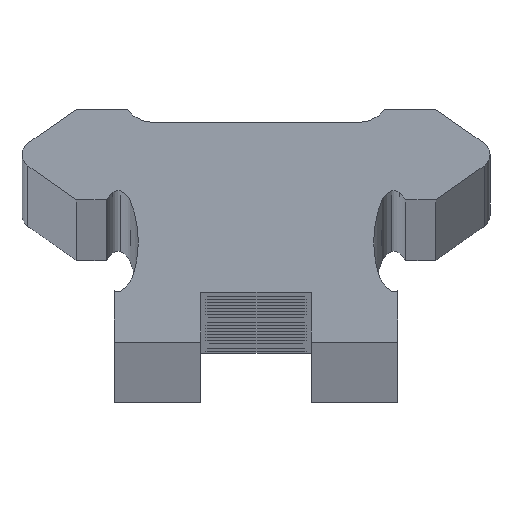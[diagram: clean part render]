
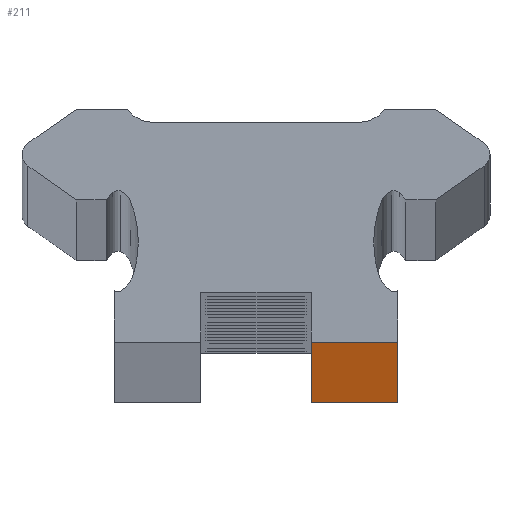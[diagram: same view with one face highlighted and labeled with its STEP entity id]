
A CAD part, top view. The second image highlights one B-rep face of the part: STEP entity #211.
In plain terms, the highlighted planar face has unit normal (0, -1, 0).
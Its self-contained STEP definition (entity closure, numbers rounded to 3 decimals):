
#211=ADVANCED_FACE('',(#533),#534,.T.);
#533=FACE_OUTER_BOUND('',#882,.T.);
#534=PLANE('',#883);
#882=EDGE_LOOP('',(#1911,#1912,#1913,#1914));
#883=AXIS2_PLACEMENT_3D('',#1915,#1916,#1917);
#1911=ORIENTED_EDGE('',*,*,#2412,.T.);
#1912=ORIENTED_EDGE('',*,*,#2413,.F.);
#1913=ORIENTED_EDGE('',*,*,#2414,.T.);
#1914=ORIENTED_EDGE('',*,*,#2410,.T.);
#1915=CARTESIAN_POINT('',(5.35,0.0,0.0));
#1916=DIRECTION('',(0.0,-1.0,0.0));
#1917=DIRECTION('',(1.0,0.0,0.0));
#2410=EDGE_CURVE('',#3001,#2999,#3002,.T.);
#2412=EDGE_CURVE('',#2999,#3004,#3005,.T.);
#2413=EDGE_CURVE('',#3006,#3004,#3007,.T.);
#2414=EDGE_CURVE('',#3006,#3001,#3008,.T.);
#2999=VERTEX_POINT('',#3734);
#3001=VERTEX_POINT('',#3737);
#3002=LINE('',#3738,#3739);
#3004=VERTEX_POINT('',#3742);
#3005=LINE('',#3743,#3744);
#3006=VERTEX_POINT('',#3745);
#3007=LINE('',#3746,#3747);
#3008=LINE('',#3748,#3749);
#3734=CARTESIAN_POINT('',(7.7,0.0,1886.0));
#3737=CARTESIAN_POINT('',(7.7,0.0,0.0));
#3738=CARTESIAN_POINT('',(7.7,0.0,0.0));
#3739=VECTOR('',#4538,1.0);
#3742=CARTESIAN_POINT('',(3.0,0.0,1886.0));
#3743=CARTESIAN_POINT('',(3.0,0.0,1886.0));
#3744=VECTOR('',#4540,1.0);
#3745=CARTESIAN_POINT('',(3.0,0.0,0.0));
#3746=CARTESIAN_POINT('',(3.0,0.0,0.0));
#3747=VECTOR('',#4541,1.0);
#3748=CARTESIAN_POINT('',(3.0,0.0,0.0));
#3749=VECTOR('',#4542,1.0);
#4538=DIRECTION('',(0.0,0.0,1.0));
#4540=DIRECTION('',(-1.0,-0.0,-0.0));
#4541=DIRECTION('',(0.0,0.0,1.0));
#4542=DIRECTION('',(1.0,0.0,0.0));
